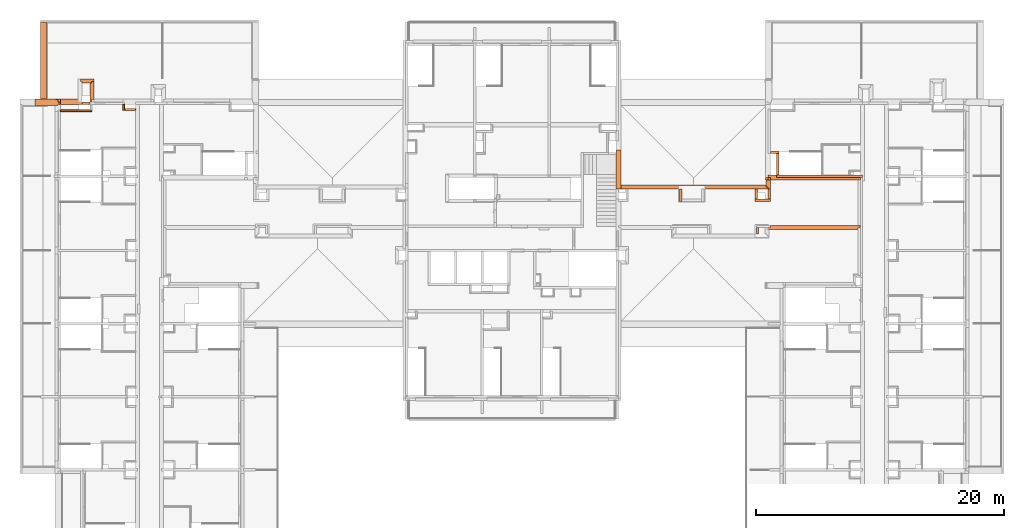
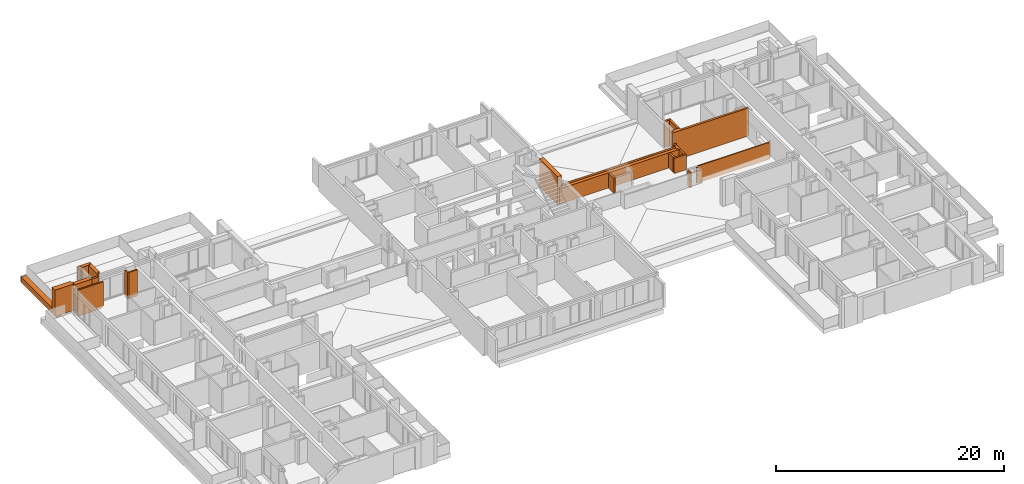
# One storey, part 23 of 30: 21 proxies.
"""IFC2X3 building model written with IfcOpenShell, lengths in millimetres."""

from ifc_helpers import new_model, entity, si_unit, converted_unit, derived_unit, money_unit, direction, frame, origin_with_axes, place, context, subcontext, project, spatial, faceted_brep, material, material_list, type_object, element, save


model = new_model("IFC2X3")

# Units and contexts
model_context = context("Model", 3, precision=0.01, world=origin_with_axes(), true_north=direction((0.34421633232, 0.938890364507)))
body_context = subcontext(model_context, "Body", "Model", "MODEL_VIEW")
ifc_project = project(units=[si_unit("LENGTHUNIT", "METRE", prefix="MILLI"), si_unit("AREAUNIT", "SQUARE_METRE"), si_unit("VOLUMEUNIT", "CUBIC_METRE"), converted_unit("PLANEANGLEUNIT", "DEGREE", entity("IfcPlaneAngleMeasure", 0.0174532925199), si_unit("PLANEANGLEUNIT", "RADIAN"), dimensions=[0, 0, 0, 0, 0, 0, 0]), si_unit("SOLIDANGLEUNIT", "STERADIAN"), money_unit("USD"), converted_unit("TIMEUNIT", "Year", entity("IfcTimeMeasure", 31556926.0), si_unit("TIMEUNIT", "SECOND"), dimensions=[0, 0, 1, 0, 0, 0, 0]), si_unit("MASSUNIT", "GRAM", prefix="KILO"), si_unit("THERMODYNAMICTEMPERATUREUNIT", "DEGREE_CELSIUS"), si_unit("LUMINOUSINTENSITYUNIT", "LUMEN"), si_unit("ENERGYUNIT", "JOULE", prefix="MEGA"), derived_unit("THERMALCONDUCTANCEUNIT", [(si_unit("POWERUNIT", "WATT"), 1), (si_unit("LENGTHUNIT", "METRE"), -1), (si_unit("THERMODYNAMICTEMPERATUREUNIT", "KELVIN"), -1)]), derived_unit("SPECIFICHEATCAPACITYUNIT", [(si_unit("ENERGYUNIT", "JOULE"), 1), (si_unit("MASSUNIT", "GRAM", prefix="KILO"), -1), (si_unit("THERMODYNAMICTEMPERATUREUNIT", "KELVIN"), -1)]), derived_unit("MASSDENSITYUNIT", [(si_unit("MASSUNIT", "GRAM", prefix="KILO"), 1), (si_unit("VOLUMEUNIT", "CUBIC_METRE"), -1)])], contexts=[model_context])

# Site, building, storey
site_placement = place(None, origin_with_axes())
site = spatial("IfcSite", under=ifc_project, at=site_placement, Name="USTRONIE MORSKIE", CompositionType="ELEMENT")
building_placement = place(site_placement, origin_with_axes())
building = spatial("IfcBuilding", under=site, at=building_placement, Name="Budynek", CompositionType="ELEMENT")
storey_placement = place(building_placement, frame((0.0, 0.0, 16000.0), z_axis=(0.0, 0.0, 1.0), x_axis=(1.0, 0.0, 0.0)))
storey = spatial("IfcBuildingStorey", under=building, at=storey_placement, Name="ANTRESOLA - KOND. TECHNICZNA", CompositionType="ELEMENT", Elevation=16000.0)

# Proxies
ifc_material_1 = material(Name="Beton konstrukcyjny B25")
ifc_material_2 = material(Name="Wełna ELEW")
ifc_material_3 = material(Name="Tynk zewnętrzny")
ifc_material_list_1 = material_list([ifc_material_1, ifc_material_2, ifc_material_3])
building_element_proxy_type_1 = type_object("IfcBuildingElementProxyType", Name="20+20 410", PredefinedType="NOTDEFINED")
proxy_1_placement = place(storey_placement, frame((353117.920919, 744701.199036, -160.0), z_axis=(0.0, 0.0, 1.0), x_axis=(-1.0, 0.0, 0.0)))
element("IfcBuildingElementProxy", 1, at=proxy_1_placement, inside=storey, type_object=building_element_proxy_type_1, material=ifc_material_list_1, Name="Œciana-006", context=body_context, shape_type="Brep", body=[
    faceted_brep([(1750.0, -100.0, 0.0), (1750.0, -100.000000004, 400.0), (1749.99998212, -100.000000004, 3000.0), (0.0, -100.0, 3000.0), (0.0, -100.0, 0.0), (1750.0, 99.9999999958, 400.0), (1750.0, 100.0, 0.0), (1749.99998212, 99.9999999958, 3000.0), (0.0, 100.0, 3000.0), (0.0, 100.0, 0.0)], [[[0, 1, 2, 3, 4]], [[5, 1, 0, 6]], [[1, 5, 7, 2]], [[2, 7, 8, 3]], [[3, 8, 9, 4]], [[6, 0, 4, 9]], [[5, 6, 9, 8, 7]]]),
    faceted_brep([(120.0, -100.0, 239.99999792), (120.0, -300.0, 239.99999792), (120.0, -300.0, 3000.0), (120.0, -100.0, 3000.0), (1950.0, -300.000000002, 239.99999792), (1950.0, -99.9999999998, 239.99999792), (1950.0, -300.000000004, 400.0), (1749.99998212, -300.000000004, 400.0), (1749.99998212, -300.000000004, 3000.0), (1749.99998212, -100.000000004, 3000.0), (1749.99998212, -100.000000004, 400.0), (1950.0, -100.000000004, 400.0)], [[[0, 1, 2, 3]], [[4, 1, 0, 5]], [[1, 4, 6, 7, 8, 2]], [[2, 8, 9, 3]], [[5, 0, 3, 9, 10, 11]], [[4, 5, 11, 6]], [[7, 6, 11, 10]], [[10, 9, 8, 7]]]),
    faceted_brep([(320.0, -300.0, 239.99999792), (320.0, -310.0, 239.99999792), (320.0, -310.0, 3000.0), (320.0, -300.0, 3000.0), (2150.0, -310.0, 239.99999792), (2150.0, -300.000000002, 239.99999792), (2150.0, -310.0, 400.0), (1749.99998212, -310.000000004, 400.0), (1749.99998212, -310.000000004, 3000.0), (1749.99998212, -300.000000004, 3000.0), (1749.99998212, -300.000000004, 400.0), (2150.0, -300.000000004, 400.0)], [[[0, 1, 2, 3]], [[4, 1, 0, 5]], [[1, 4, 6, 7, 8, 2]], [[2, 8, 9, 3]], [[5, 0, 3, 9, 10, 11]], [[4, 5, 11, 6]], [[7, 6, 11, 10]], [[10, 9, 8, 7]]]),
])
ifc_material_list_2 = material_list([ifc_material_3, ifc_material_2, ifc_material_1])
proxy_2_placement = place(storey_placement, frame((396317.920919, 740931.199036, -160.0), z_axis=(0.0, 0.0, 1.0), x_axis=(0.0, -1.0, 0.0)))
element("IfcBuildingElementProxy", 2, at=proxy_2_placement, inside=storey, type_object=building_element_proxy_type_1, material=ifc_material_list_2, Name="Œciana-006", context=body_context, shape_type="Brep", body=[
    faceted_brep([(2849.99895235, 310.0, 435.911989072), (0.0, 310.0, 435.911989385), (0.0, 310.0, 3000.0), (3179.99909883, 310.0, 3000.0), (3179.99909883, 310.0, 1825.00000171), (2849.9990841, 310.0, 1825.00000171), (2849.9990841, 310.0, 1820.00000171), (0.0, 300.000026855, 436.111988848), (2849.99895069, 300.000026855, 436.111988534), (0.0, 300.0, 3000.0), (3179.99909883, 300.0, 3000.0), (3179.99909883, 300.0, 1825.00000171), (2849.9990841, 300.0, 1825.00000171), (2849.9990841, 300.0, 1820.00000171)], [[[0, 1, 2, 3, 4, 5, 6]], [[7, 1, 0, 8]], [[1, 7, 9, 2]], [[10, 3, 2, 9]], [[3, 10, 11, 4]], [[11, 12, 5, 4]], [[12, 13, 6, 5]], [[8, 0, 6, 13]], [[7, 8, 13, 12, 11, 10, 9]]]),
    faceted_brep([(2849.9990841, 300.0, 1620.00000171), (2999.99909883, 300.0, 1620.00000171), (2999.99909883, 300.0, 5.0), (0.0, 300.0, 5.0), (0.0, 300.0, 3000.0), (3179.99909883, 300.0, 3000.0), (3179.99909883, 300.0, 1825.00000171), (2849.9990841, 300.0, 1825.00000171), (2849.9990841, 99.9999252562, 1620.00000171), (2999.99909883, 99.9999445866, 1620.00000171), (2999.99909883, 100.000000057, 5.0), (0.0, 100.000000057, 5.0), (0.0, 100.0, 3000.0), (3179.99909883, 100.0, 3000.0), (3179.99909883, 99.999967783, 1825.00000171), (2849.9990841, 99.9999252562, 1825.00000171)], [[[0, 1, 2, 3, 4, 5, 6, 7]], [[8, 9, 1, 0]], [[1, 9, 10, 2]], [[2, 10, 11, 3]], [[12, 4, 3, 11]], [[13, 5, 4, 12]], [[5, 13, 14, 6]], [[14, 15, 7, 6]], [[8, 0, 7, 15]], [[13, 12, 11, 10, 9, 8, 15, 14]]]),
    faceted_brep([(0.0, -100.0, 3000.0), (3179.99909883, -100.0, 3000.0), (3179.99909883, 100.0, 3000.0), (0.0, 100.0, 3000.0), (0.0, -100.0, 0.0), (3179.99909883, -100.0, 0.0), (3179.99909883, 100.0, 0.0), (0.0, 100.0, 0.0)], [[[0, 1, 2, 3]], [[4, 5, 1, 0]], [[2, 1, 5, 6]], [[3, 2, 6, 7]], [[4, 0, 3, 7]], [[7, 6, 5, 4]]]),
])
proxy_3_placement = place(storey_placement, frame((416017.920919, 738801.199036, -160.0), z_axis=(0.0, 0.0, 1.0), x_axis=(-1.0, 0.0, 0.0)))
element("IfcBuildingElementProxy", 3, at=proxy_3_placement, inside=storey, type_object=building_element_proxy_type_1, material=ifc_material_list_2, Name="SZ-01", context=body_context, shape_type="Brep", body=[
    faceted_brep([(7690.0000765, 310.0, 436.311987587), (7690.0000765, 300.000068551, 436.311987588), (7690.0, 300.0, 1819.99999023), (7690.0, 310.0, 1819.99999023), (7749.99995532, 300.000068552, 435.111990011), (7760.00001181, 310.0, 434.911988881), (7760.00001181, 300.0, 434.911988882), (7760.00001181, 300.0, 1819.99999023), (7759.99999624, 300.0, 3000.0), (280.0, 300.0, 3000.0), (280.0, 300.0, 5.0), (7360.0, 300.0, 5.0), (7360.0, 300.0, 1819.99999023), (7540.0, 300.0, 1819.99999023), (7360.0, 310.0, 1819.99999023), (7360.0, 310.0, 5.0), (280.0, 310.0, 5.0), (280.0, 310.0, 3000.0), (7759.99999624, 310.0, 3000.0), (7760.00001181, 310.0, 1819.99999023)], [[[0, 1, 2, 3]], [[4, 1, 0, 5, 6]], [[4, 6, 7, 8, 9, 10, 11, 12, 13, 2, 1]], [[12, 14, 3, 2, 13]], [[5, 0, 3, 14, 15, 16, 17, 18, 19]], [[6, 5, 19, 7]], [[19, 18, 8, 7]], [[18, 17, 9, 8]], [[17, 16, 10, 9]], [[15, 11, 10, 16]], [[12, 11, 15, 14]]]),
    faceted_brep([(7540.0, 100.0, 1819.99999023), (7540.0, 300.0, 1819.99999023), (7540.0, 300.0, 5.0), (7540.0, 100.000013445, 5.0), (7360.0, 100.0, 1819.99999023), (7360.0, 300.0, 1819.99999023), (7360.0, 300.0, 5.0), (80.0001132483, 300.0, 5.0), (80.0, 300.0, 3000.0), (7750.0, 300.0, 3000.0), (7750.0, 300.0, 5.0), (7750.0, 100.0, 5.0), (7549.99992845, 100.000013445, 5.0), (7750.0, 100.0, 3000.00000005), (80.0, 100.0, 3000.0), (80.0001132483, 100.000013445, 5.0), (7360.0, 100.000013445, 5.0)], [[[0, 1, 2, 3]], [[4, 5, 1, 0]], [[1, 5, 6, 7, 8, 9, 10, 2]], [[10, 11, 12, 3, 2]], [[13, 14, 15, 16, 4, 0, 3, 12, 11]], [[5, 4, 16, 6]], [[7, 6, 16, 15]], [[14, 8, 7, 15]], [[9, 8, 14, 13]], [[9, 13, 11, 10]]]),
    faceted_brep([(7550.0, -100.0, 3000.00000011), (6850.0, -100.0, 3000.0), (6850.0, -100.0, 2800.0), (-80.0, -100.0, 2800.0), (-80.0, -100.0, 0.0), (7550.0, -100.0, 5.34665645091e-08), (7550.0, 100.0, 3000.00000005), (6850.0, 100.0, 3000.0), (6850.0, 100.0, 2800.0), (100.0, 100.0, 2800.0), (-80.0, 100.0, 2800.0), (-80.0, 100.0, 0.0), (7550.0, 100.0, 0.0)], [[[0, 1, 2, 3, 4, 5]], [[6, 7, 1, 0]], [[8, 2, 1, 7]], [[9, 10, 3, 2, 8]], [[4, 3, 10, 11]], [[4, 11, 12, 5]], [[6, 0, 5, 12]], [[9, 8, 7, 6, 12, 11, 10]]]),
])
ifc_material_4 = material(Name="Bloczki silikatowe")
building_element_proxy_type_2 = type_object("IfcBuildingElementProxyType", Name="Bloczki silikatowe 180", PredefinedType="NOTDEFINED")
proxy_4_placement = place(storey_placement, frame((401427.920919, 737841.199937, -359.999998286), z_axis=(0.0, 0.0, 1.0), x_axis=(0.0, -1.0, 0.0)))
element("IfcBuildingElementProxy", 4, at=proxy_4_placement, inside=storey, type_object=building_element_proxy_type_2, material=ifc_material_4, Name="SW-02", context=body_context, shape_type="Brep", body=[
    faceted_brep([(1070.00090117, 90.0, 1820.0), (1070.00090117, 90.0, 199.999998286), (90.0, 90.0, 199.999998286), (90.0, 90.0, 1820.0), (1070.00090117, -90.0, 1820.0), (1070.00090117, -90.0, 199.999998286), (90.0, -90.0, 199.999998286), (90.0, -90.0, 1820.0)], [[[0, 1, 2, 3]], [[4, 5, 1, 0]], [[5, 6, 2, 1]], [[3, 2, 6, 7]], [[4, 0, 3, 7]], [[7, 6, 5, 4]]]),
])
proxy_5_placement = place(storey_placement, frame((408567.920919, 737751.199937, -359.999998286), z_axis=(0.0, 0.0, 1.0), x_axis=(0.0, -1.0, 0.0)))
element("IfcBuildingElementProxy", 5, at=proxy_5_placement, inside=storey, type_object=building_element_proxy_type_2, material=ifc_material_4, Name="SW-02", context=body_context, shape_type="Brep", body=[
    faceted_brep([(800.00090117, 90.0, 1820.0), (800.00090117, 90.0, 199.999998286), (0.0, 90.0, 199.999998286), (0.0, 90.0, 1820.0), (800.00090117, -90.0, 1820.0), (800.00090117, -90.0, 199.999998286), (0.0, -90.0, 199.999998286), (0.0, -90.0, 1820.0)], [[[0, 1, 2, 3]], [[4, 5, 1, 0]], [[5, 6, 2, 1]], [[3, 2, 6, 7]], [[4, 0, 3, 7]], [[7, 6, 5, 4]]]),
])
proxy_6_placement = place(storey_placement, frame((408567.920919, 736861.199036, -160.0), z_axis=(0.0, 0.0, 1.0), x_axis=(-1.0, 0.0, 0.0)))
element("IfcBuildingElementProxy", 6, at=proxy_6_placement, inside=storey, type_object=building_element_proxy_type_2, material=ifc_material_4, Name="SW-02", context=body_context, shape_type="Brep", body=[
    faceted_brep([(1129.98317971, -90.0, 1620.00000171), (-90.0, -90.0, 1620.00000171), (-90.0, -90.0, 0.0), (1129.98317971, -90.0, 0.0), (1129.98317971, 90.0, 1620.00000171), (-90.0, 90.0, 1620.00000171), (-90.0, 90.0, 0.0), (1129.98317971, 90.0, 0.0)], [[[0, 1, 2, 3]], [[4, 5, 1, 0]], [[2, 1, 5, 6]], [[6, 7, 3, 2]], [[7, 4, 0, 3]], [[6, 5, 4, 7]]]),
])
proxy_7_placement = place(storey_placement, frame((409257.920919, 738801.199036, -160.0), z_axis=(0.0, 0.0, 1.0), x_axis=(0.0, 1.0, 0.0)))
element("IfcBuildingElementProxy", 7, at=proxy_7_placement, inside=storey, type_object=building_element_proxy_type_2, material=ifc_material_4, Name="SW-02", context=body_context, shape_type="Brep", body=[
    faceted_brep([(1819.98043997, 90.0, 0.0), (1819.98043997, -90.0, 0.0), (100.0, -90.0, 0.0), (100.0, 90.0, 0.0), (1819.98043997, 90.0, 2800.0), (1819.98043997, -90.0, 2800.0), (100.0, -90.0, 2800.0), (100.0, 90.0, 2800.0)], [[[0, 1, 2, 3]], [[1, 0, 4, 5]], [[1, 5, 6, 2]], [[7, 3, 2, 6]], [[4, 0, 3, 7]], [[5, 4, 7, 6]]]),
])
proxy_8_placement = place(storey_placement, frame((407527.937739, 737841.199937, -160.0), z_axis=(0.0, 0.0, 1.0), x_axis=(0.0, -1.0, 0.0)))
element("IfcBuildingElementProxy", 8, at=proxy_8_placement, inside=storey, type_object=building_element_proxy_type_2, material=ifc_material_4, Name="SW-02", context=body_context, shape_type="Brep", body=[
    faceted_brep([(90.0, -90.0, 0.0), (90.0, -90.0, 1620.00000171), (90.0, 90.0, 1620.00000171), (90.0, 90.0, 0.0), (890.00090117, -90.0, 1620.00000171), (890.00090117, -90.0, 0.0), (890.00090117, 90.0, 1620.00000171), (890.00090117, 90.0, 0.0)], [[[0, 1, 2, 3]], [[4, 1, 0, 5]], [[6, 2, 1, 4]], [[3, 2, 6, 7]], [[3, 7, 5, 0]], [[7, 6, 4, 5]]]),
])
proxy_9_placement = place(storey_placement, frame((409257.920919, 740711.179476, -159.999998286), z_axis=(0.0, 0.0, 1.0), x_axis=(-1.0, 0.0, 0.0)))
element("IfcBuildingElementProxy", 9, at=proxy_9_placement, inside=storey, type_object=building_element_proxy_type_2, material=ifc_material_4, Name="SW-02", context=body_context, shape_type="Brep", body=[
    faceted_brep([(590.0, 90.0, 0.0), (590.0, -90.0, 0.0), (-90.0, -90.0, 0.0), (-90.0, 90.0, 0.0), (590.0, 90.0, 2800.0), (590.0, -90.0, 2800.0), (-90.0, -90.0, 2800.0), (-90.0, 90.0, 2800.0)], [[[0, 1, 2, 3]], [[1, 0, 4, 5]], [[1, 5, 6, 2]], [[7, 3, 2, 6]], [[4, 0, 3, 7]], [[5, 4, 7, 6]]]),
])
proxy_10_placement = place(storey_placement, frame((407627.960866, 734741.199279, -159.999998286), z_axis=(0.0, 0.0, 1.0), x_axis=(-1.01056317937e-05, -0.999999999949, 0.0)))
element("IfcBuildingElementProxy", 10, at=proxy_10_placement, inside=storey, type_object=building_element_proxy_type_2, material=ifc_material_4, Name="SW-02", context=body_context, shape_type="Brep", body=[
    faceted_brep([(90.0009095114, -90.0, 0.0), (90.0009095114, -90.0, 800.0), (89.9990904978, 90.0000000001, 800.0), (89.9990904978, 90.0000000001, 0.0), (589.998304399, -90.0, 0.0), (589.998304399, -90.0, 800.0), (589.996485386, 90.0000000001, 800.0), (589.996485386, 90.0000000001, 0.0)], [[[0, 1, 2, 3]], [[4, 5, 1, 0]], [[5, 6, 2, 1]], [[3, 2, 6, 7]], [[3, 7, 4, 0]], [[7, 6, 5, 4]]]),
    faceted_brep([(90.0009095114, -90.0, 920.0), (90.0009095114, -90.0, 1620.0), (89.9990904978, 90.0000000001, 1620.0), (89.9990904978, 90.0000000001, 920.0), (589.998304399, -90.0, 920.0), (589.998304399, -90.0, 1620.0), (589.996485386, 90.0000000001, 1620.0), (589.996485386, 90.0000000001, 920.0)], [[[0, 1, 2, 3]], [[4, 5, 1, 0]], [[5, 6, 2, 1]], [[3, 2, 6, 7]], [[4, 0, 3, 7]], [[7, 6, 5, 4]]]),
])
building_element_proxy_type_3 = type_object("IfcBuildingElementProxyType", Name="Bloczki silikatowe 150", PredefinedType="NOTDEFINED")
proxy_11_placement = place(storey_placement, frame((351267.920919, 744151.199036, -160.0), z_axis=(0.0, 0.0, 1.0), x_axis=(1.0, 0.0, 0.0)))
element("IfcBuildingElementProxy", 11, at=proxy_11_placement, inside=storey, type_object=building_element_proxy_type_3, material=ifc_material_4, Name="SW-03", context=body_context, shape_type="Brep", body=[
    faceted_brep([(100.0, 0.0, 0.0), (100.0, 0.0, 2800.0), (2500.0, 0.0, 2800.0), (2650.0, 0.0, 2800.0), (2650.0, 0.0, 160.0), (2500.0, 0.0, 160.0), (2500.0, 0.0, 0.0), (100.0, -150.0, 0.0), (100.0, -150.0, 2800.0), (2650.0, -150.0, 2800.0), (2650.0, -150.0, 160.0), (2500.0, -150.0, 160.0), (2500.0, -150.0, 0.0)], [[[0, 1, 2, 3, 4, 5, 6]], [[7, 8, 1, 0]], [[8, 9, 3, 2, 1]], [[4, 3, 9, 10]], [[11, 5, 4, 10]], [[11, 12, 6, 5]], [[7, 0, 6, 12]], [[10, 9, 8, 7, 12, 11]]]),
])
proxy_12_placement = place(storey_placement, frame((356492.920018, 744701.199973, -160.0), z_axis=(0.0, 0.0, 1.0), x_axis=(0.0, -1.0, 0.0)))
element("IfcBuildingElementProxy", 12, at=proxy_12_placement, inside=storey, type_object=building_element_proxy_type_3, material=ifc_material_4, Name="SW-03", context=body_context, shape_type="Brep", body=[
    faceted_brep([(600.000936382, -75.0, 2800.0), (600.000936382, 75.0, 2800.0), (100.000936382, 75.0, 2800.0), (100.000936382, -75.0, 2800.0), (600.000936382, -75.0, 0.0), (600.000936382, 75.0, 0.0), (100.000936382, 75.0, 0.0), (100.000936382, -75.0, 0.0)], [[[0, 1, 2, 3]], [[1, 0, 4, 5]], [[1, 5, 6, 2]], [[7, 3, 2, 6]], [[4, 0, 3, 7]], [[5, 4, 7, 6]]]),
])
proxy_13_placement = place(storey_placement, frame((356492.920018, 744176.199036, -160.0), z_axis=(0.0, 0.0, 1.0), x_axis=(1.0, 0.0, 0.0)))
element("IfcBuildingElementProxy", 13, at=proxy_13_placement, inside=storey, type_object=building_element_proxy_type_3, material=ifc_material_4, Name="SW-03", context=body_context, shape_type="Brep", body=[
    faceted_brep([(945.00090117, -75.0, 2800.0), (945.00090117, 75.0, 2800.0), (75.0, 75.0, 2800.0), (75.0, -75.0, 2800.0), (945.00090117, -75.0, 0.0), (945.00090117, 75.0, 0.0), (75.0, 75.0, 0.0), (75.0, -75.0, 0.0)], [[[0, 1, 2, 3]], [[1, 0, 4, 5]], [[1, 5, 6, 2]], [[7, 3, 2, 6]], [[4, 0, 3, 7]], [[5, 4, 7, 6]]]),
])
building_element_proxy_type_4 = type_object("IfcBuildingElementProxyType", Name="Beton konstrukcyjny B25 200", PredefinedType="NOTDEFINED")
proxy_14_placement = place(storey_placement, frame((353767.920919, 744701.199036, -160.0), z_axis=(0.0, 0.0, 1.0), x_axis=(-1.0, 0.0, 0.0)))
element("IfcBuildingElementProxy", 14, at=proxy_14_placement, inside=storey, type_object=building_element_proxy_type_4, material=ifc_material_1, Name="SW-01", context=body_context, shape_type="Brep", body=[
    faceted_brep([(650.0, -100.0, 0.0), (0.0, -100.0, 0.0), (0.0, 100.0, 0.0), (650.0, 100.0, 0.0), (650.0, -100.0, 3000.0), (0.0, -100.0, 3000.0), (0.0, 100.0, 3000.0), (650.0, 100.0, 3000.0)], [[[0, 1, 2, 3]], [[4, 5, 1, 0]], [[1, 5, 6, 2]], [[3, 2, 6, 7]], [[7, 4, 0, 3]], [[7, 6, 5, 4]]]),
])
ifc_material_list_3 = material_list([ifc_material_3, ifc_material_2, ifc_material_1, ifc_material_2, ifc_material_3])
building_element_proxy_type_5 = type_object("IfcBuildingElementProxyType", Name="BALKON bok 01 520", PredefinedType="NOTDEFINED")
proxy_15_placement = place(storey_placement, frame((351267.920919, 744701.199036, 240.0), z_axis=(0.0, 0.0, 1.0), x_axis=(-1.0, 0.0, 0.0)))
element("IfcBuildingElementProxy", 15, at=proxy_15_placement, inside=storey, type_object=building_element_proxy_type_5, material=ifc_material_list_3, Name="Œciana-007", context=body_context, shape_type="Brep", body=[
    faceted_brep([(300.0, 210.0, 2810.0), (300.0, 200.0, 2810.0), (1950.0, 200.0, 2810.0), (1950.0, 210.0, 2810.0), (300.0, 200.0, 2600.0), (300.0, 210.0, 2600.0), (300.0, 200.0, 0.0), (1950.0, 200.0, 0.0), (1950.0, 210.0, 0.0), (300.0, 210.0, 0.0)], [[[0, 1, 2, 3]], [[4, 1, 0, 5]], [[1, 4, 6, 7, 2]], [[2, 7, 8, 3]], [[5, 0, 3, 8, 9]], [[4, 5, 9, 6]], [[6, 9, 8, 7]]]),
    faceted_brep([(100.0, 200.0, 2810.0), (100.0, 100.0, 2810.0), (1950.0, 99.9999999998, 2810.0), (1950.0, 200.0, 2810.0), (100.0, 100.0, 2600.0), (100.0, 200.0, 2600.0), (100.0, 100.0, 0.0), (1950.0, 99.9999999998, 0.0), (1950.0, 200.0, 0.0), (100.0, 200.0, 0.0)], [[[0, 1, 2, 3]], [[4, 1, 0, 5]], [[1, 4, 6, 7, 2]], [[2, 7, 8, 3]], [[5, 0, 3, 8, 9]], [[4, 5, 9, 6]], [[6, 9, 8, 7]]]),
    faceted_brep([(1.13686837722e-10, 100.0, 2600.0), (-100.000017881, 100.0, 2600.0), (-100.000017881, -100.0, 2600.0), (0.0, -100.0, 2600.0), (1950.0, 99.9999999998, 0.0), (-100.000017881, 100.0, 0.0), (1.13686837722e-10, 100.0, 2810.00000179), (1950.0, 99.9999999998, 2810.0), (-100.000017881, -100.0, 0.0), (1950.0, -100.0, 0.0), (1950.0, -100.0, 2810.0), (0.0, -100.0, 2810.00000179)], [[[0, 1, 2, 3]], [[4, 5, 1, 0, 6, 7]], [[5, 8, 2, 1]], [[3, 2, 8, 9, 10, 11]], [[0, 3, 11, 6]], [[9, 8, 5, 4]], [[7, 6, 11, 10]], [[10, 9, 4, 7]]]),
    faceted_brep([(100.0, -300.0, 2810.0), (100.0, -300.0, 2600.0), (0.0, -300.0, 2600.0), (-100.000017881, -300.0, 2600.0), (-100.000017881, -300.0, 0.0), (1950.0, -300.0, 0.0), (1950.0, -300.0, 2810.0), (100.0, -100.0, 2810.0), (100.0, -100.0, 2600.0), (0.0, -100.0, 2600.0), (-100.000017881, -100.0, 2600.0), (-100.000017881, -100.0, 0.0), (1950.0, -100.0, 0.0), (1950.0, -100.0, 2810.0)], [[[0, 1, 2, 3, 4, 5, 6]], [[1, 0, 7, 8]], [[9, 2, 1, 8]], [[2, 9, 10, 3]], [[11, 4, 3, 10]], [[5, 4, 11, 12]], [[6, 5, 12, 13]], [[7, 0, 6, 13]], [[8, 7, 13, 12, 11, 10, 9]]]),
    faceted_brep([(300.0, -309.999999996, 2810.0), (300.0, -309.999999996, 2600.0), (100.0, -309.999999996, 2600.0), (0.0, -309.999999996, 2600.0), (-100.000017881, -310.0, 2600.0), (-100.000017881, -310.0, 0.0), (1950.0, -310.0, 0.0), (1950.0, -310.0, 2810.0), (300.0, -300.0, 2810.0), (300.0, -300.0, 2600.0), (100.0, -300.0, 2600.0), (0.0, -300.0, 2600.0), (-100.000017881, -300.0, 2600.0), (-100.000017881, -300.0, 0.0), (1950.0, -300.0, 0.0), (1950.0, -300.0, 2810.0)], [[[0, 1, 2, 3, 4, 5, 6, 7]], [[1, 0, 8, 9]], [[10, 2, 1, 9]], [[2, 10, 11, 3]], [[3, 11, 12, 4]], [[13, 5, 4, 12]], [[6, 5, 13, 14]], [[7, 6, 14, 15]], [[8, 0, 7, 15]], [[9, 8, 15, 14, 13, 12, 11, 10]]]),
])
ifc_material_list_4 = material_list([ifc_material_3, ifc_material_2, ifc_material_4, ifc_material_2, ifc_material_3])
building_element_proxy_type_6 = type_object("IfcBuildingElementProxyType", Name="18 SILIKAT+20-10 500", PredefinedType="NOTDEFINED")
proxy_16_placement = place(storey_placement, frame((349967.920919, 751316.201689, -360.00000208), z_axis=(0.0, 0.0, 1.0), x_axis=(0.0, -1.0, 0.0)))
element("IfcBuildingElementProxy", 16, at=proxy_16_placement, inside=storey, type_object=building_element_proxy_type_6, material=ifc_material_list_4, Name="Œciana-006", context=body_context, shape_type="Brep", body=[
    faceted_brep([(75.0, 290.0, 440.0), (75.0, 290.0, 600.00000208), (6305.00265249, 290.0, 600.00000208), (6305.00265249, 290.0, 440.0), (75.0, 280.0, 440.0), (75.0, 280.0, 600.00000208), (6305.00265249, 280.0, 600.00000208), (6305.00265249, 280.0, 440.0)], [[[0, 1, 2, 3]], [[0, 4, 5, 1]], [[6, 2, 1, 5]], [[7, 3, 2, 6]], [[4, 0, 3, 7]], [[4, 7, 6, 5]]]),
    faceted_brep([(75.0, 280.0, 440.0), (75.0, 280.0, 600.00000208), (6315.00265249, 280.0, 600.00000208), (6315.00265249, 280.0, 440.0), (75.0, 180.0, 440.0), (75.0, 180.0, 600.00000208), (6315.00265249, 180.0, 600.00000208), (6315.00265249, 180.0, 440.0)], [[[0, 1, 2, 3]], [[0, 4, 5, 1]], [[6, 2, 1, 5]], [[7, 3, 2, 6]], [[4, 0, 3, 7]], [[4, 7, 6, 5]]]),
    faceted_brep([(75.0, 180.0, 200.0), (75.0, 180.0, 600.00000208), (6515.00265249, 180.0, 600.00000208), (6515.00265249, 180.0, 200.0), (75.0, 0.0, 200.0), (75.0, 0.0, 600.00000208), (6515.00265249, 0.0, 600.00000208), (6515.00265249, -2.84217094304e-10, 200.0)], [[[0, 1, 2, 3]], [[0, 4, 5, 1]], [[6, 2, 1, 5]], [[7, 3, 2, 6]], [[4, 0, 3, 7]], [[4, 7, 6, 5]]]),
    faceted_brep([(6315.00265249, 0.0, 0.0), (6315.00265249, -200.0, 0.0), (75.0, -200.0, 0.0), (75.0, 0.0, 0.0), (6315.00265249, 0.0, 600.00000208), (6315.00265249, -200.0, 600.00000208), (75.0, -200.0, 600.00000208), (75.0, 0.0, 600.00000208)], [[[0, 1, 2, 3]], [[1, 0, 4, 5]], [[1, 5, 6, 2]], [[7, 3, 2, 6]], [[4, 0, 3, 7]], [[5, 4, 7, 6]]]),
    faceted_brep([(6305.00265249, -200.0, 0.0), (6305.00265249, -210.0, 0.0), (75.0, -210.0, 0.0), (75.0, -200.0, 0.0), (6305.00265249, -200.0, 600.00000208), (6305.00265249, -210.0, 600.00000208), (75.0, -210.0, 600.00000208), (75.0, -200.0, 600.00000208)], [[[0, 1, 2, 3]], [[1, 0, 4, 5]], [[1, 5, 6, 2]], [[7, 3, 2, 6]], [[4, 0, 3, 7]], [[5, 4, 7, 6]]]),
])
ifc_material_list_5 = material_list([ifc_material_4, ifc_material_2, ifc_material_3])
building_element_proxy_type_7 = type_object("IfcBuildingElementProxyType", Name="18+15 AKU 340", PredefinedType="NOTDEFINED")
proxy_17_placement = place(storey_placement, frame((408567.920919, 738801.199036, -359.999998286), z_axis=(0.0, 0.0, 1.0), x_axis=(0.0, -1.0, 0.0)))
element("IfcBuildingElementProxy", 17, at=proxy_17_placement, inside=storey, type_object=building_element_proxy_type_7, material=ifc_material_list_5, Name="Œciana-006", context=body_context, shape_type="Brep", body=[
    faceted_brep([(310.000112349, -90.0, 1820.0), (1049.99909883, -90.0, 1820.0), (1049.99909883, 90.0, 1820.0), (310.000112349, 90.0, 1820.0), (310.000112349, -90.0, 2020.0), (100.0, -90.0, 2019.99998851), (100.0, -90.0, 199.999998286), (1049.99909883, -90.0, 199.999998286), (1049.99909883, 90.0, 199.999998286), (100.0, 90.0, 199.999998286), (100.0, 90.0, 2019.99998851), (310.000112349, 90.0, 2020.0)], [[[0, 1, 2, 3]], [[1, 0, 4, 5, 6, 7]], [[2, 1, 7, 8]], [[2, 8, 9, 10, 11, 3]], [[3, 11, 4, 0]], [[4, 11, 10, 5]], [[6, 5, 10, 9]], [[7, 6, 9, 8]]]),
    faceted_brep([(869.99909883, -90.0, 1820.0), (869.99909883, -90.0, 204.999998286), (300.0, -90.0, 204.999998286), (300.0, -90.0, 2019.99998851), (310.000112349, -90.0, 2020.0), (310.000112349, -90.0, 1820.0), (869.99909883, -240.0, 1820.0), (869.99909883, -240.0, 204.999998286), (300.0, -240.0, 204.999998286), (300.0, -240.0, 2019.99998851), (310.000112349, -240.0, 2020.0), (310.000112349, -240.0, 1820.0)], [[[0, 1, 2, 3, 4, 5]], [[6, 7, 1, 0]], [[7, 8, 2, 1]], [[3, 2, 8, 9]], [[9, 10, 4, 3]], [[11, 5, 4, 10]], [[6, 0, 5, 11]], [[9, 8, 7, 6, 11, 10]]]),
    faceted_brep([(719.999913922, -240.000076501, 636.311985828), (310.000030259, -240.000076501, 636.311985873), (310.000112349, -240.0, 1820.0), (719.99909883, -240.0, 1820.0), (310.000030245, -250.000007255, 636.111987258), (719.999913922, -250.000007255, 636.111987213), (310.000112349, -250.000026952, 1820.0), (719.999084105, -250.000026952, 1820.0)], [[[0, 1, 2, 3]], [[4, 1, 0, 5]], [[1, 4, 6, 2]], [[7, 3, 2, 6]], [[5, 0, 3, 7]], [[4, 5, 7, 6]]]),
])
proxy_18_placement = place(storey_placement, frame((408567.920919, 737841.199937, -160.0), z_axis=(0.0, 0.0, 1.0), x_axis=(-1.0, 0.0, 0.0)))
element("IfcBuildingElementProxy", 18, at=proxy_18_placement, inside=storey, type_object=building_element_proxy_type_7, material=ifc_material_list_5, Name="Œciana-006", context=body_context, shape_type="Brep", body=[
    faceted_brep([(90.0, -90.0, 1620.00000171), (90.0, -90.0, 0.0), (12150.0, -90.0, 0.0), (12150.0000554, -90.0, 1620.00000171), (90.0, 90.0, 1620.00000171), (90.0, 90.0, 0.0), (12150.0, 90.0, 0.0), (12150.0000322, 90.0, 1620.00000171)], [[[0, 1, 2, 3]], [[0, 4, 5, 1]], [[6, 2, 1, 5]], [[7, 3, 2, 6]], [[7, 4, 0, 3]], [[7, 6, 5, 4]]]),
    faceted_brep([(240.0, -90.0, 5.0), (240.0, -240.0, 5.0), (240.0, -240.0, 1620.00000171), (240.0, -90.0, 1620.00000171), (11950.0, -90.0, 5.0), (11950.0, -240.000000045, 5.0), (11950.0, -240.000014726, 1620.00000171), (250.000026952, -240.000014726, 1620.00000171), (11950.0, -90.0, 1620.00000171)], [[[0, 1, 2, 3]], [[1, 0, 4, 5]], [[1, 5, 6, 7, 2]], [[8, 3, 2, 7, 6]], [[0, 3, 8, 4]], [[5, 4, 8, 6]]]),
    faceted_brep([(250.0, -240.0, 5.0), (250.0, -250.0, 5.0), (250.0, -250.0, 1819.99999023), (250.0, -240.0, 1819.99999023), (11940.0, -240.0, 5.0), (11940.0, -250.0, 5.0), (11940.0, -250.0, 1819.99999023), (11940.0, -240.0, 1819.99999023)], [[[0, 1, 2, 3]], [[1, 0, 4, 5]], [[1, 5, 6, 2]], [[6, 7, 3, 2]], [[0, 3, 7, 4]], [[5, 4, 7, 6]]]),
])
ifc_material_list_6 = material_list([ifc_material_3, ifc_material_2, ifc_material_4])
proxy_19_placement = place(storey_placement, frame((416017.920919, 734741.199572, -359.999998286), z_axis=(0.0, 0.0, 1.0), x_axis=(-1.0, 0.0, 0.0)))
element("IfcBuildingElementProxy", 19, at=proxy_19_placement, inside=storey, type_object=building_element_proxy_type_7, material=ifc_material_list_6, Name="Œciana-006", context=body_context, shape_type="Brep", body=[
    faceted_brep([(300.000025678, 240.000838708, 784.111988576), (7469.97987314, 240.001036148, 640.712391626), (7469.979952, 240.0, 2019.99998851), (290.0, 240.0, 2019.99998851), (290.0, 240.000001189, 204.999998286), (300.000025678, 240.000838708, 204.999998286), (300.000025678, 250.0, 784.111988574), (7469.97987024, 250.0, 640.712391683), (7469.98005306, 250.0, 2019.99998851), (290.0, 250.0, 2019.99998851), (290.0, 250.0, 204.999998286), (300.000025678, 250.0, 204.999998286)], [[[0, 1, 2, 3, 4, 5]], [[1, 0, 6, 7]], [[1, 7, 8, 2]], [[2, 8, 9, 3]], [[4, 3, 9, 10]], [[11, 5, 4, 10]], [[0, 5, 11, 6]], [[6, 11, 10, 9, 8, 7]]]),
    faceted_brep([(280.0, 240.000510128, 1820.0), (280.0, 240.000002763, 204.999998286), (280.0, 89.9999988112, 204.999998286), (280.0, 89.9999998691, 1820.0), (7619.97995201, 240.000000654, 1000.0), (7619.97995201, 240.000001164, 204.999998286), (7469.979952, 239.999998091, 1820.0), (7619.97995201, 240.000000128, 1820.0), (7619.97995201, 240.000000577, 1120.0), (7520.00012862, 240.0, 1120.0), (7520.00012862, 240.0, 1000.0), (7619.97843616, 90.0, 204.999998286), (7619.97843616, 90.0, 1000.0), (7520.00012862, 90.0, 1000.0), (7520.00012862, 90.0, 1120.0), (7619.97843616, 90.0, 1120.0), (7619.97843616, 90.0, 1820.0)], [[[0, 1, 2, 3]], [[4, 5, 1, 0, 6, 7, 8, 9, 10]], [[5, 11, 2, 1]], [[3, 2, 11, 12, 13, 14, 15, 16]], [[6, 0, 3, 16, 7]], [[12, 11, 5, 4]], [[8, 7, 16, 15]], [[8, 15, 14, 9]], [[9, 14, 13, 10]], [[10, 13, 12, 4]]]),
    faceted_brep([(80.0001132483, 89.9999999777, 199.999998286), (80.0001132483, -89.9995493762, 199.999998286), (80.0, -90.0, 2019.99998851), (80.0, 90.0, 2019.99998851), (7350.07825336, -90.0, 199.999998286), (7350.07653703, 89.9999988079, 199.999998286), (7359.97661714, -89.9997074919, 200.0), (7359.97661714, -89.9997074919, 1820.0), (100.0, -89.9997074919, 1820.0), (100.0, -89.9999991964, 2020.0), (100.0, 90.0000008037, 2020.0), (100.0, 90.0002925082, 1820.0), (7359.97661714, 90.0002925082, 1820.0), (7359.97661714, 90.0002925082, 200.0)], [[[0, 1, 2, 3]], [[4, 1, 0, 5]], [[1, 4, 6, 7, 8, 9, 2]], [[9, 10, 3, 2]], [[5, 0, 3, 10, 11, 12, 13]], [[4, 5, 13, 6]], [[12, 7, 6, 13]], [[8, 7, 12, 11]], [[10, 9, 8, 11]]]),
])
building_element_proxy_type_8 = type_object("IfcBuildingElementProxyType", Name="12+20 330", PredefinedType="NOTDEFINED")
proxy_20_placement = place(storey_placement, frame((353827.920919, 746381.199036, -160.0), z_axis=(0.0, 0.0, 1.0), x_axis=(0.0, -1.0, 0.0)))
element("IfcBuildingElementProxy", 20, at=proxy_20_placement, inside=storey, type_object=building_element_proxy_type_8, material=ifc_material_list_6, Name="Ściana-009", context=body_context, shape_type="Brep", body=[
    faceted_brep([(1370.0, 269.999999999, 239.99999792), (-260.0, 270.0, 239.99999792), (-260.0, 270.0, 3210.0), (1370.0, 269.999999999, 3210.0), (1370.0, 259.999999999, 239.99999792), (-260.0, 260.0, 239.99999792), (-260.0, 260.0, 3210.0), (1370.0, 259.999999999, 3210.0)], [[[0, 1, 2, 3]], [[1, 0, 4, 5]], [[1, 5, 6, 2]], [[6, 7, 3, 2]], [[4, 0, 3, 7]], [[4, 7, 6, 5]]]),
    faceted_brep([(1380.0, 259.999999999, 239.99999792), (-59.9999999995, 260.0, 239.99999792), (-59.9999999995, 260.0, 3210.0), (1380.0, 259.999999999, 3210.0), (1380.0, 59.9999999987, 239.99999792), (-59.9999999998, 60.0000000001, 239.99999792), (-59.9999999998, 60.0000000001, 3210.0), (1380.0, 59.9999999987, 3210.0)], [[[0, 1, 2, 3]], [[1, 0, 4, 5]], [[1, 5, 6, 2]], [[6, 7, 3, 2]], [[4, 0, 3, 7]], [[4, 7, 6, 5]]]),
    faceted_brep([(1580.0, -60.0, 3210.0), (1580.0, -60.0, 0.0), (1580.0, 59.9999999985, 0.0), (1580.0, 59.9999999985, 3210.0), (59.9999999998, -60.0000000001, 0.0), (59.9999999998, -60.0000000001, 3210.0), (60.0000000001, 59.9999999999, 0.0), (60.0000000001, 59.9999999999, 3210.0)], [[[0, 1, 2, 3]], [[4, 1, 0, 5]], [[6, 2, 1, 4]], [[3, 2, 6, 7]], [[5, 0, 3, 7]], [[5, 7, 6, 4]]]),
])
proxy_21_placement = place(storey_placement, frame((353827.920919, 746381.199036, -160.0), z_axis=(0.0, 0.0, 1.0), x_axis=(-1.0, 0.0, 0.0)))
element("IfcBuildingElementProxy", 21, at=proxy_21_placement, inside=storey, type_object=building_element_proxy_type_8, material=ifc_material_list_5, Name="Ściana-009", context=body_context, shape_type="Brep", body=[
    faceted_brep([(709.999999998, -59.9999999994, 0.0), (-59.9999999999, -60.0000000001, 0.0), (-60.0000000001, 59.9999999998, 0.0), (709.999999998, 60.0000000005, 0.0), (709.999999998, -59.9999999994, 3210.0), (-59.9999999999, -60.0000000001, 3210.0), (-60.0000000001, 59.9999999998, 3210.0), (709.999999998, 60.0000000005, 3210.0)], [[[0, 1, 2, 3]], [[4, 5, 1, 0]], [[2, 1, 5, 6]], [[3, 2, 6, 7]], [[3, 7, 4, 0]], [[7, 6, 5, 4]]]),
    faceted_brep([(-260.0, -60.0000000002, 239.99999792), (-260.0, -260.0, 239.99999792), (-260.0, -260.0, 3210.0), (-260.0, -60.0000000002, 3210.0), (829.999999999, -259.999999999, 239.99999792), (829.999999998, -59.9999999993, 239.99999792), (829.999999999, -259.999999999, 3210.0), (829.999999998, -59.9999999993, 3210.0)], [[[0, 1, 2, 3]], [[4, 1, 0, 5]], [[1, 4, 6, 2]], [[6, 7, 3, 2]], [[5, 0, 3, 7]], [[4, 5, 7, 6]]]),
    faceted_brep([(-270.0, -260.0, 239.99999792), (-270.0, -270.0, 239.99999792), (-270.0, -270.0, 3210.0), (-270.0, -260.0, 3210.0), (1030.0, -269.999999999, 239.99999792), (1030.0, -259.999999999, 239.99999792), (1030.0, -269.999999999, 3210.0), (1030.0, -259.999999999, 3210.0)], [[[0, 1, 2, 3]], [[4, 1, 0, 5]], [[1, 4, 6, 2]], [[6, 7, 3, 2]], [[5, 0, 3, 7]], [[4, 5, 7, 6]]]),
])

save(model, "model.ifc")
